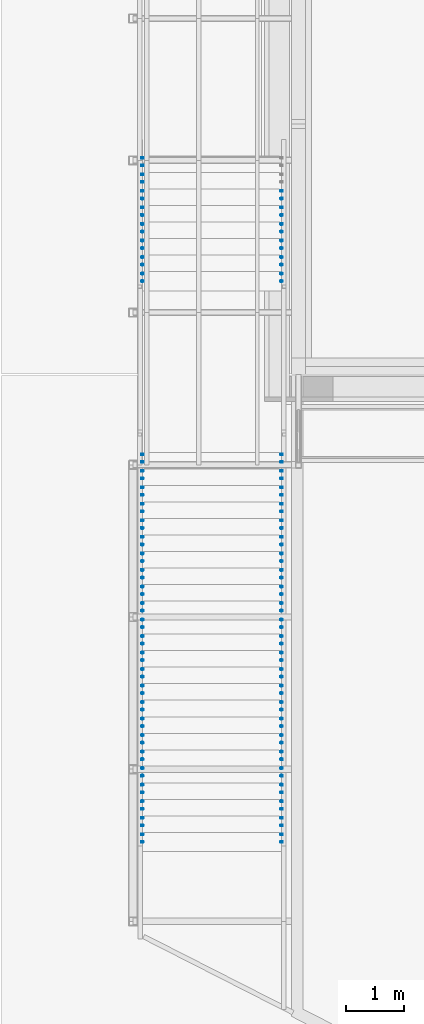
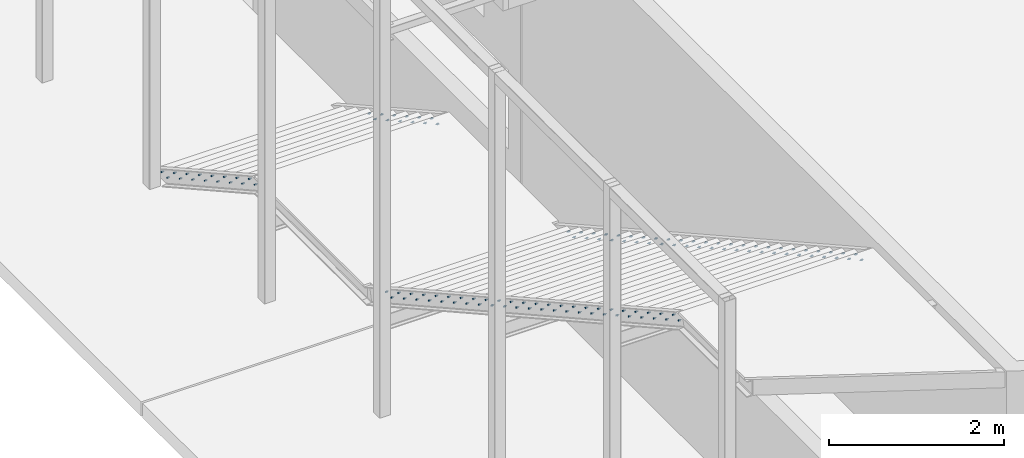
# One storey, part 67 of 78: 62 mechanical fasteners, 4 elements without a shape of their own.
"""IFC2X3 building model written with IfcOpenShell, lengths in millimetres."""

from ifc_helpers import new_model, si_unit, frame, origin_with_axes, origin_2d_with_axis, place, context, subcontext, project, spatial, polyline, circle, outline, extrude, source, transform, mapped, material, type_object, element, aggregate, save


model = new_model("IFC2X3")

# Units and contexts
model_context = context("Model", 3, precision=1e-05, world=origin_with_axes())
body_context = subcontext(model_context, "Body", "Model", "MODEL_VIEW")
ifc_project = project(units=[si_unit("LENGTHUNIT", "METRE", prefix="MILLI"), si_unit("AREAUNIT", "SQUARE_METRE"), si_unit("VOLUMEUNIT", "CUBIC_METRE"), si_unit("MASSUNIT", "GRAM", prefix="KILO"), si_unit("TIMEUNIT", "SECOND"), si_unit("PLANEANGLEUNIT", "RADIAN"), si_unit("SOLIDANGLEUNIT", "STERADIAN"), si_unit("THERMODYNAMICTEMPERATUREUNIT", "DEGREE_CELSIUS"), si_unit("LUMINOUSINTENSITYUNIT", "LUMEN")], contexts=[model_context])

# Site, building, storey
site_placement = place(None, origin_with_axes())
site = spatial("IfcSite", under=ifc_project, at=site_placement, Name="Site", CompositionType="ELEMENT")
building_placement = place(site_placement, origin_with_axes())
building = spatial("IfcBuilding", under=site, at=building_placement, Name="Undefined", CompositionType="ELEMENT")
storey_placement = place(building_placement, origin_with_axes())
storey = spatial("IfcBuildingStorey", under=building, at=storey_placement, Name="Undefined", CompositionType="ELEMENT", Elevation=0.0)

# Assembly, mechanical fastener
assembly_1_placement = place(storey_placement, origin_with_axes())
assembly_1 = element("IfcElementAssembly", 1, at=assembly_1_placement, inside=storey, AssemblyPlace="NOTDEFINED", PredefinedType="RIGID_FRAME")
ifc_material = material(Name="6.8")
mechanical_fastener_type = type_object("IfcMechanicalFastenerType", Name="Bolt assembly")
shared_shape = source(origin_with_axes(), body_context, "Body", "SweptSolid", [
    extrude(circle(Radius=6.0, at=origin_2d_with_axis()), frame((0.0, -9.00000002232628, 0.0), z_axis=(0.0, 1.0, 0.0), x_axis=(1.0, 0.0, 0.0)), (0.0, 0.0, 1.0), 9.1),
    extrude(outline(polyline([(10.96965511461, 0.0), (5.484827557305, 9.50000000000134), (-5.484827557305, 9.50000000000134), (-10.96965511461, 0.0), (-5.484827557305, -9.50000000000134), (5.484827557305, -9.50000000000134), (10.96965511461, 0.0)])), frame((0.0, -17.0000000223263, 0.0), z_axis=(0.0, 1.0, 0.0), x_axis=(1.0, 0.0, 0.0)), (0.0, 0.0, 1.0), 8.0),
    extrude(circle(Radius=6.0, at=origin_2d_with_axis()), frame((0.0, -9.00000002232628, 0.0), z_axis=(0.0, 1.0, 0.0), x_axis=(1.0, 0.0, 0.0)), (0.0, 0.0, 1.0), 35.0),
    extrude(circle(Radius=15.5, at=origin_2d_with_axis()), frame((0.0, 0.0, 0.0), z_axis=(0.0, 1.0, 0.0), x_axis=(1.0, 0.0, 0.0)), (0.0, 0.0, 1.0), 3.2),
    extrude(outline(polyline([(10.39230484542, 0.0), (5.19615242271, 9.00000000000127), (-5.19615242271, 9.00000000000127), (-10.39230484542, 0.0), (-5.19615242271, -9.00000000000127), (5.19615242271, -9.00000000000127), (10.39230484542, 0.0)])), frame((0.0, 3.20000004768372, 0.0), z_axis=(0.0, 1.0, 0.0), x_axis=(1.0, 0.0, 0.0)), (0.0, 0.0, 1.0), 10.8),
])
mechanical_fastener_1_placement = place(assembly_1_placement, frame((-30776.4300000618, -15032.0040538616, 153186.04001333), z_axis=(0.0, 0.0, -1.0), x_axis=(0.0, -1.0, 0.0)))
mechanical_fastener_1 = element("IfcMechanicalFastener", 2, at=mechanical_fastener_1_placement, type_object=mechanical_fastener_type, material=ifc_material, Name="Bolt assembly", NominalDiameter=12.0, NominalLength=35.0, context=body_context, shape_type="MappedRepresentation", body=[
    mapped(shared_shape, transform((0.0, 0.0, 0.0))),
    mapped(shared_shape, transform((130.0, 0.0, 0.0))),
])

assembly_2_placement = place(storey_placement, origin_with_axes())
assembly_2 = element("IfcElementAssembly", 3, at=assembly_2_placement, inside=storey, AssemblyPlace="NOTDEFINED", PredefinedType="RIGID_FRAME")
mechanical_fastener_2_placement = place(assembly_2_placement, frame((-33176.4300000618, -15032.0040538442, 153186.040013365), z_axis=(0.0, 0.0, 1.0), x_axis=(0.0, -1.0, 0.0)))
mechanical_fastener_2 = element("IfcMechanicalFastener", 4, at=mechanical_fastener_2_placement, type_object=mechanical_fastener_type, material=ifc_material, Name="Bolt assembly", NominalDiameter=12.0, NominalLength=35.0, context=body_context, shape_type="MappedRepresentation", body=[
    mapped(shared_shape, transform((0.0, 0.0, 0.0))),
    mapped(shared_shape, transform((130.0, 0.0, 0.0))),
])

# Mechanical fastener
mechanical_fastener_3_placement = place(assembly_1_placement, frame((-30776.4300000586, -14747.0040538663, 153027.04001325), z_axis=(0.0, 0.0, -1.0), x_axis=(0.0, -1.0, 0.0)))
mechanical_fastener_3 = element("IfcMechanicalFastener", 5, at=mechanical_fastener_3_placement, type_object=mechanical_fastener_type, material=ifc_material, Name="Bolt assembly", NominalDiameter=12.0, NominalLength=35.0, context=body_context, shape_type="MappedRepresentation", body=[
    mapped(shared_shape, transform((0.0, 0.0, 0.0))),
    mapped(shared_shape, transform((130.0, 0.0, 0.0))),
])

mechanical_fastener_4_placement = place(assembly_2_placement, frame((-33176.4300000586, -14747.0040538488, 153027.040013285), z_axis=(0.0, 0.0, 1.0), x_axis=(0.0, -1.0, 0.0)))
mechanical_fastener_4 = element("IfcMechanicalFastener", 6, at=mechanical_fastener_4_placement, type_object=mechanical_fastener_type, material=ifc_material, Name="Bolt assembly", NominalDiameter=12.0, NominalLength=35.0, context=body_context, shape_type="MappedRepresentation", body=[
    mapped(shared_shape, transform((0.0, 0.0, 0.0))),
    mapped(shared_shape, transform((130.0, 0.0, 0.0))),
])

mechanical_fastener_5_placement = place(assembly_1_placement, frame((-30776.4300000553, -14462.0040538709, 152868.04001317), z_axis=(0.0, 0.0, -1.0), x_axis=(0.0, -1.0, 0.0)))
mechanical_fastener_5 = element("IfcMechanicalFastener", 7, at=mechanical_fastener_5_placement, type_object=mechanical_fastener_type, material=ifc_material, Name="Bolt assembly", NominalDiameter=12.0, NominalLength=35.0, context=body_context, shape_type="MappedRepresentation", body=[
    mapped(shared_shape, transform((0.0, 0.0, 0.0))),
    mapped(shared_shape, transform((130.0, 0.0, 0.0))),
])

mechanical_fastener_6_placement = place(assembly_2_placement, frame((-33176.4300000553, -14462.0040538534, 152868.040013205), z_axis=(0.0, 0.0, 1.0), x_axis=(0.0, -1.0, 0.0)))
mechanical_fastener_6 = element("IfcMechanicalFastener", 8, at=mechanical_fastener_6_placement, type_object=mechanical_fastener_type, material=ifc_material, Name="Bolt assembly", NominalDiameter=12.0, NominalLength=35.0, context=body_context, shape_type="MappedRepresentation", body=[
    mapped(shared_shape, transform((0.0, 0.0, 0.0))),
    mapped(shared_shape, transform((130.0, 0.0, 0.0))),
])

mechanical_fastener_7_placement = place(assembly_1_placement, frame((-30776.4300000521, -14177.0040538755, 152709.04001309), z_axis=(0.0, 0.0, -1.0), x_axis=(0.0, -1.0, 0.0)))
mechanical_fastener_7 = element("IfcMechanicalFastener", 9, at=mechanical_fastener_7_placement, type_object=mechanical_fastener_type, material=ifc_material, Name="Bolt assembly", NominalDiameter=12.0, NominalLength=35.0, context=body_context, shape_type="MappedRepresentation", body=[
    mapped(shared_shape, transform((0.0, 0.0, 0.0))),
    mapped(shared_shape, transform((130.0, 0.0, 0.0))),
])

mechanical_fastener_8_placement = place(assembly_2_placement, frame((-33176.4300000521, -14177.0040538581, 152709.040013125), z_axis=(0.0, 0.0, 1.0), x_axis=(0.0, -1.0, 0.0)))
mechanical_fastener_8 = element("IfcMechanicalFastener", 10, at=mechanical_fastener_8_placement, type_object=mechanical_fastener_type, material=ifc_material, Name="Bolt assembly", NominalDiameter=12.0, NominalLength=35.0, context=body_context, shape_type="MappedRepresentation", body=[
    mapped(shared_shape, transform((0.0, 0.0, 0.0))),
    mapped(shared_shape, transform((130.0, 0.0, 0.0))),
])

mechanical_fastener_9_placement = place(assembly_1_placement, frame((-30776.4300000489, -13892.0040538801, 152550.04001301), z_axis=(0.0, 0.0, -1.0), x_axis=(0.0, -1.0, 0.0)))
mechanical_fastener_9 = element("IfcMechanicalFastener", 11, at=mechanical_fastener_9_placement, type_object=mechanical_fastener_type, material=ifc_material, Name="Bolt assembly", NominalDiameter=12.0, NominalLength=35.0, context=body_context, shape_type="MappedRepresentation", body=[
    mapped(shared_shape, transform((0.0, 0.0, 0.0))),
    mapped(shared_shape, transform((130.0, 0.0, 0.0))),
])

mechanical_fastener_10_placement = place(assembly_2_placement, frame((-33176.4300000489, -13892.0040538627, 152550.040013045), z_axis=(0.0, 0.0, 1.0), x_axis=(0.0, -1.0, 0.0)))
mechanical_fastener_10 = element("IfcMechanicalFastener", 12, at=mechanical_fastener_10_placement, type_object=mechanical_fastener_type, material=ifc_material, Name="Bolt assembly", NominalDiameter=12.0, NominalLength=35.0, context=body_context, shape_type="MappedRepresentation", body=[
    mapped(shared_shape, transform((0.0, 0.0, 0.0))),
    mapped(shared_shape, transform((130.0, 0.0, 0.0))),
])

mechanical_fastener_11_placement = place(assembly_1_placement, frame((-30776.4300000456, -13607.0040538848, 152391.04001293), z_axis=(0.0, 0.0, -1.0), x_axis=(0.0, -1.0, 0.0)))
mechanical_fastener_11 = element("IfcMechanicalFastener", 13, at=mechanical_fastener_11_placement, type_object=mechanical_fastener_type, material=ifc_material, Name="Bolt assembly", NominalDiameter=12.0, NominalLength=35.0, context=body_context, shape_type="MappedRepresentation", body=[
    mapped(shared_shape, transform((0.0, 0.0, 0.0))),
    mapped(shared_shape, transform((130.0, 0.0, 0.0))),
])

mechanical_fastener_12_placement = place(assembly_2_placement, frame((-33176.4300000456, -13607.0040538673, 152391.040012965), z_axis=(0.0, 0.0, 1.0), x_axis=(0.0, -1.0, 0.0)))
mechanical_fastener_12 = element("IfcMechanicalFastener", 14, at=mechanical_fastener_12_placement, type_object=mechanical_fastener_type, material=ifc_material, Name="Bolt assembly", NominalDiameter=12.0, NominalLength=35.0, context=body_context, shape_type="MappedRepresentation", body=[
    mapped(shared_shape, transform((0.0, 0.0, 0.0))),
    mapped(shared_shape, transform((130.0, 0.0, 0.0))),
])

mechanical_fastener_13_placement = place(assembly_1_placement, frame((-30776.4300000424, -13322.0040538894, 152232.04001285), z_axis=(0.0, 0.0, -1.0), x_axis=(0.0, -1.0, 0.0)))
mechanical_fastener_13 = element("IfcMechanicalFastener", 15, at=mechanical_fastener_13_placement, type_object=mechanical_fastener_type, material=ifc_material, Name="Bolt assembly", NominalDiameter=12.0, NominalLength=35.0, context=body_context, shape_type="MappedRepresentation", body=[
    mapped(shared_shape, transform((0.0, 0.0, 0.0))),
    mapped(shared_shape, transform((130.0, 0.0, 0.0))),
])

mechanical_fastener_14_placement = place(assembly_2_placement, frame((-33176.4300000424, -13322.0040538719, 152232.040012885), z_axis=(0.0, 0.0, 1.0), x_axis=(0.0, -1.0, 0.0)))
mechanical_fastener_14 = element("IfcMechanicalFastener", 16, at=mechanical_fastener_14_placement, type_object=mechanical_fastener_type, material=ifc_material, Name="Bolt assembly", NominalDiameter=12.0, NominalLength=35.0, context=body_context, shape_type="MappedRepresentation", body=[
    mapped(shared_shape, transform((0.0, 0.0, 0.0))),
    mapped(shared_shape, transform((130.0, 0.0, 0.0))),
])

mechanical_fastener_15_placement = place(assembly_1_placement, frame((-30776.4300000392, -13037.004053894, 152073.04001277), z_axis=(0.0, 0.0, -1.0), x_axis=(0.0, -1.0, 0.0)))
mechanical_fastener_15 = element("IfcMechanicalFastener", 17, at=mechanical_fastener_15_placement, type_object=mechanical_fastener_type, material=ifc_material, Name="Bolt assembly", NominalDiameter=12.0, NominalLength=35.0, context=body_context, shape_type="MappedRepresentation", body=[
    mapped(shared_shape, transform((0.0, 0.0, 0.0))),
    mapped(shared_shape, transform((130.0, 0.0, 0.0))),
])

mechanical_fastener_16_placement = place(assembly_2_placement, frame((-33176.4300000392, -13037.0040538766, 152073.040012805), z_axis=(0.0, 0.0, 1.0), x_axis=(0.0, -1.0, 0.0)))
mechanical_fastener_16 = element("IfcMechanicalFastener", 18, at=mechanical_fastener_16_placement, type_object=mechanical_fastener_type, material=ifc_material, Name="Bolt assembly", NominalDiameter=12.0, NominalLength=35.0, context=body_context, shape_type="MappedRepresentation", body=[
    mapped(shared_shape, transform((0.0, 0.0, 0.0))),
    mapped(shared_shape, transform((130.0, 0.0, 0.0))),
])

mechanical_fastener_17_placement = place(assembly_1_placement, frame((-30776.430000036, -12752.0040538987, 151914.04001269), z_axis=(0.0, 0.0, -1.0), x_axis=(0.0, -1.0, 0.0)))
mechanical_fastener_17 = element("IfcMechanicalFastener", 19, at=mechanical_fastener_17_placement, type_object=mechanical_fastener_type, material=ifc_material, Name="Bolt assembly", NominalDiameter=12.0, NominalLength=35.0, context=body_context, shape_type="MappedRepresentation", body=[
    mapped(shared_shape, transform((0.0, 0.0, 0.0))),
    mapped(shared_shape, transform((130.0, 0.0, 0.0))),
])

mechanical_fastener_18_placement = place(assembly_2_placement, frame((-33176.430000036, -12752.0040538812, 151914.040012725), z_axis=(0.0, 0.0, 1.0), x_axis=(0.0, -1.0, 0.0)))
mechanical_fastener_18 = element("IfcMechanicalFastener", 20, at=mechanical_fastener_18_placement, type_object=mechanical_fastener_type, material=ifc_material, Name="Bolt assembly", NominalDiameter=12.0, NominalLength=35.0, context=body_context, shape_type="MappedRepresentation", body=[
    mapped(shared_shape, transform((0.0, 0.0, 0.0))),
    mapped(shared_shape, transform((130.0, 0.0, 0.0))),
])

mechanical_fastener_19_placement = place(assembly_1_placement, frame((-30776.4300000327, -12467.0040539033, 151755.04001261), z_axis=(0.0, 0.0, -1.0), x_axis=(0.0, -1.0, 0.0)))
mechanical_fastener_19 = element("IfcMechanicalFastener", 21, at=mechanical_fastener_19_placement, type_object=mechanical_fastener_type, material=ifc_material, Name="Bolt assembly", NominalDiameter=12.0, NominalLength=35.0, context=body_context, shape_type="MappedRepresentation", body=[
    mapped(shared_shape, transform((0.0, 0.0, 0.0))),
    mapped(shared_shape, transform((130.0, 0.0, 0.0))),
])

mechanical_fastener_20_placement = place(assembly_2_placement, frame((-33176.4300000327, -12467.0040538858, 151755.040012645), z_axis=(0.0, 0.0, 1.0), x_axis=(0.0, -1.0, 0.0)))
mechanical_fastener_20 = element("IfcMechanicalFastener", 22, at=mechanical_fastener_20_placement, type_object=mechanical_fastener_type, material=ifc_material, Name="Bolt assembly", NominalDiameter=12.0, NominalLength=35.0, context=body_context, shape_type="MappedRepresentation", body=[
    mapped(shared_shape, transform((0.0, 0.0, 0.0))),
    mapped(shared_shape, transform((130.0, 0.0, 0.0))),
])

mechanical_fastener_21_placement = place(assembly_1_placement, frame((-30776.4300000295, -12182.0040539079, 151596.04001253), z_axis=(0.0, 0.0, -1.0), x_axis=(0.0, -1.0, 0.0)))
mechanical_fastener_21 = element("IfcMechanicalFastener", 23, at=mechanical_fastener_21_placement, type_object=mechanical_fastener_type, material=ifc_material, Name="Bolt assembly", NominalDiameter=12.0, NominalLength=35.0, context=body_context, shape_type="MappedRepresentation", body=[
    mapped(shared_shape, transform((0.0, 0.0, 0.0))),
    mapped(shared_shape, transform((130.0, 0.0, 0.0))),
])

mechanical_fastener_22_placement = place(assembly_2_placement, frame((-33176.4300000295, -12182.0040538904, 151596.040012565), z_axis=(0.0, 0.0, 1.0), x_axis=(0.0, -1.0, 0.0)))
mechanical_fastener_22 = element("IfcMechanicalFastener", 24, at=mechanical_fastener_22_placement, type_object=mechanical_fastener_type, material=ifc_material, Name="Bolt assembly", NominalDiameter=12.0, NominalLength=35.0, context=body_context, shape_type="MappedRepresentation", body=[
    mapped(shared_shape, transform((0.0, 0.0, 0.0))),
    mapped(shared_shape, transform((130.0, 0.0, 0.0))),
])

mechanical_fastener_23_placement = place(assembly_1_placement, frame((-30776.4300000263, -11897.0040539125, 151437.04001245), z_axis=(0.0, 0.0, -1.0), x_axis=(0.0, -1.0, 0.0)))
mechanical_fastener_23 = element("IfcMechanicalFastener", 25, at=mechanical_fastener_23_placement, type_object=mechanical_fastener_type, material=ifc_material, Name="Bolt assembly", NominalDiameter=12.0, NominalLength=35.0, context=body_context, shape_type="MappedRepresentation", body=[
    mapped(shared_shape, transform((0.0, 0.0, 0.0))),
    mapped(shared_shape, transform((130.0, 0.0, 0.0))),
])

mechanical_fastener_24_placement = place(assembly_2_placement, frame((-33176.4300000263, -11897.0040538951, 151437.040012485), z_axis=(0.0, 0.0, 1.0), x_axis=(0.0, -1.0, 0.0)))
mechanical_fastener_24 = element("IfcMechanicalFastener", 26, at=mechanical_fastener_24_placement, type_object=mechanical_fastener_type, material=ifc_material, Name="Bolt assembly", NominalDiameter=12.0, NominalLength=35.0, context=body_context, shape_type="MappedRepresentation", body=[
    mapped(shared_shape, transform((0.0, 0.0, 0.0))),
    mapped(shared_shape, transform((130.0, 0.0, 0.0))),
])

mechanical_fastener_25_placement = place(assembly_1_placement, frame((-30776.430000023, -11612.0040539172, 151278.04001237), z_axis=(0.0, 0.0, -1.0), x_axis=(0.0, -1.0, 0.0)))
mechanical_fastener_25 = element("IfcMechanicalFastener", 27, at=mechanical_fastener_25_placement, type_object=mechanical_fastener_type, material=ifc_material, Name="Bolt assembly", NominalDiameter=12.0, NominalLength=35.0, context=body_context, shape_type="MappedRepresentation", body=[
    mapped(shared_shape, transform((0.0, 0.0, 0.0))),
    mapped(shared_shape, transform((130.0, 0.0, 0.0))),
])

mechanical_fastener_26_placement = place(assembly_2_placement, frame((-33176.430000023, -11612.0040538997, 151278.040012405), z_axis=(0.0, 0.0, 1.0), x_axis=(0.0, -1.0, 0.0)))
mechanical_fastener_26 = element("IfcMechanicalFastener", 28, at=mechanical_fastener_26_placement, type_object=mechanical_fastener_type, material=ifc_material, Name="Bolt assembly", NominalDiameter=12.0, NominalLength=35.0, context=body_context, shape_type="MappedRepresentation", body=[
    mapped(shared_shape, transform((0.0, 0.0, 0.0))),
    mapped(shared_shape, transform((130.0, 0.0, 0.0))),
])

mechanical_fastener_27_placement = place(assembly_1_placement, frame((-30776.4300000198, -11327.0040539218, 151119.04001229), z_axis=(0.0, 0.0, -1.0), x_axis=(0.0, -1.0, 0.0)))
mechanical_fastener_27 = element("IfcMechanicalFastener", 29, at=mechanical_fastener_27_placement, type_object=mechanical_fastener_type, material=ifc_material, Name="Bolt assembly", NominalDiameter=12.0, NominalLength=35.0, context=body_context, shape_type="MappedRepresentation", body=[
    mapped(shared_shape, transform((0.0, 0.0, 0.0))),
    mapped(shared_shape, transform((130.0, 0.0, 0.0))),
])

mechanical_fastener_28_placement = place(assembly_2_placement, frame((-33176.4300000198, -11327.0040539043, 151119.040012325), z_axis=(0.0, 0.0, 1.0), x_axis=(0.0, -1.0, 0.0)))
mechanical_fastener_28 = element("IfcMechanicalFastener", 30, at=mechanical_fastener_28_placement, type_object=mechanical_fastener_type, material=ifc_material, Name="Bolt assembly", NominalDiameter=12.0, NominalLength=35.0, context=body_context, shape_type="MappedRepresentation", body=[
    mapped(shared_shape, transform((0.0, 0.0, 0.0))),
    mapped(shared_shape, transform((130.0, 0.0, 0.0))),
])

mechanical_fastener_29_placement = place(assembly_1_placement, frame((-30776.4300000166, -11042.0040539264, 150960.04001221), z_axis=(0.0, 0.0, -1.0), x_axis=(0.0, -1.0, 0.0)))
mechanical_fastener_29 = element("IfcMechanicalFastener", 31, at=mechanical_fastener_29_placement, type_object=mechanical_fastener_type, material=ifc_material, Name="Bolt assembly", NominalDiameter=12.0, NominalLength=35.0, context=body_context, shape_type="MappedRepresentation", body=[
    mapped(shared_shape, transform((0.0, 0.0, 0.0))),
    mapped(shared_shape, transform((130.0, 0.0, 0.0))),
])

mechanical_fastener_30_placement = place(assembly_2_placement, frame((-33176.4300000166, -11042.004053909, 150960.040012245), z_axis=(0.0, 0.0, 1.0), x_axis=(0.0, -1.0, 0.0)))
mechanical_fastener_30 = element("IfcMechanicalFastener", 32, at=mechanical_fastener_30_placement, type_object=mechanical_fastener_type, material=ifc_material, Name="Bolt assembly", NominalDiameter=12.0, NominalLength=35.0, context=body_context, shape_type="MappedRepresentation", body=[
    mapped(shared_shape, transform((0.0, 0.0, 0.0))),
    mapped(shared_shape, transform((130.0, 0.0, 0.0))),
])

mechanical_fastener_31_placement = place(assembly_1_placement, frame((-30776.4300000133, -10757.004053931, 150801.04001213), z_axis=(0.0, 0.0, -1.0), x_axis=(0.0, -1.0, 0.0)))
mechanical_fastener_31 = element("IfcMechanicalFastener", 33, at=mechanical_fastener_31_placement, type_object=mechanical_fastener_type, material=ifc_material, Name="Bolt assembly", NominalDiameter=12.0, NominalLength=35.0, context=body_context, shape_type="MappedRepresentation", body=[
    mapped(shared_shape, transform((0.0, 0.0, 0.0))),
    mapped(shared_shape, transform((130.0, 0.0, 0.0))),
])

mechanical_fastener_32_placement = place(assembly_2_placement, frame((-33176.4300000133, -10757.0040539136, 150801.040012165), z_axis=(0.0, 0.0, 1.0), x_axis=(0.0, -1.0, 0.0)))
mechanical_fastener_32 = element("IfcMechanicalFastener", 34, at=mechanical_fastener_32_placement, type_object=mechanical_fastener_type, material=ifc_material, Name="Bolt assembly", NominalDiameter=12.0, NominalLength=35.0, context=body_context, shape_type="MappedRepresentation", body=[
    mapped(shared_shape, transform((0.0, 0.0, 0.0))),
    mapped(shared_shape, transform((130.0, 0.0, 0.0))),
])

mechanical_fastener_33_placement = place(assembly_1_placement, frame((-30776.4300000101, -10472.0040539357, 150642.04001205), z_axis=(0.0, 0.0, -1.0), x_axis=(0.0, -1.0, 0.0)))
mechanical_fastener_33 = element("IfcMechanicalFastener", 35, at=mechanical_fastener_33_placement, type_object=mechanical_fastener_type, material=ifc_material, Name="Bolt assembly", NominalDiameter=12.0, NominalLength=35.0, context=body_context, shape_type="MappedRepresentation", body=[
    mapped(shared_shape, transform((0.0, 0.0, 0.0))),
    mapped(shared_shape, transform((130.0, 0.0, 0.0))),
])

mechanical_fastener_34_placement = place(assembly_2_placement, frame((-33176.4300000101, -10472.0040539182, 150642.040012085), z_axis=(0.0, 0.0, 1.0), x_axis=(0.0, -1.0, 0.0)))
mechanical_fastener_34 = element("IfcMechanicalFastener", 36, at=mechanical_fastener_34_placement, type_object=mechanical_fastener_type, material=ifc_material, Name="Bolt assembly", NominalDiameter=12.0, NominalLength=35.0, context=body_context, shape_type="MappedRepresentation", body=[
    mapped(shared_shape, transform((0.0, 0.0, 0.0))),
    mapped(shared_shape, transform((130.0, 0.0, 0.0))),
])

mechanical_fastener_35_placement = place(assembly_1_placement, frame((-30776.4300000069, -10187.0040539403, 150483.04001197), z_axis=(0.0, 0.0, -1.0), x_axis=(0.0, -1.0, 0.0)))
mechanical_fastener_35 = element("IfcMechanicalFastener", 37, at=mechanical_fastener_35_placement, type_object=mechanical_fastener_type, material=ifc_material, Name="Bolt assembly", NominalDiameter=12.0, NominalLength=35.0, context=body_context, shape_type="MappedRepresentation", body=[
    mapped(shared_shape, transform((0.0, 0.0, 0.0))),
    mapped(shared_shape, transform((130.0, 0.0, 0.0))),
])

mechanical_fastener_36_placement = place(assembly_2_placement, frame((-33176.4300000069, -10187.0040539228, 150483.040012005), z_axis=(0.0, 0.0, 1.0), x_axis=(0.0, -1.0, 0.0)))
mechanical_fastener_36 = element("IfcMechanicalFastener", 38, at=mechanical_fastener_36_placement, type_object=mechanical_fastener_type, material=ifc_material, Name="Bolt assembly", NominalDiameter=12.0, NominalLength=35.0, context=body_context, shape_type="MappedRepresentation", body=[
    mapped(shared_shape, transform((0.0, 0.0, 0.0))),
    mapped(shared_shape, transform((130.0, 0.0, 0.0))),
])

mechanical_fastener_37_placement = place(assembly_1_placement, frame((-30776.4300000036, -9902.00405394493, 150324.04001189), z_axis=(0.0, 0.0, -1.0), x_axis=(0.0, -1.0, 0.0)))
mechanical_fastener_37 = element("IfcMechanicalFastener", 39, at=mechanical_fastener_37_placement, type_object=mechanical_fastener_type, material=ifc_material, Name="Bolt assembly", NominalDiameter=12.0, NominalLength=35.0, context=body_context, shape_type="MappedRepresentation", body=[
    mapped(shared_shape, transform((0.0, 0.0, 0.0))),
    mapped(shared_shape, transform((130.0, 0.0, 0.0))),
])

mechanical_fastener_38_placement = place(assembly_2_placement, frame((-33176.4300000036, -9902.00405392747, 150324.040011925), z_axis=(0.0, 0.0, 1.0), x_axis=(0.0, -1.0, 0.0)))
mechanical_fastener_38 = element("IfcMechanicalFastener", 40, at=mechanical_fastener_38_placement, type_object=mechanical_fastener_type, material=ifc_material, Name="Bolt assembly", NominalDiameter=12.0, NominalLength=35.0, context=body_context, shape_type="MappedRepresentation", body=[
    mapped(shared_shape, transform((0.0, 0.0, 0.0))),
    mapped(shared_shape, transform((130.0, 0.0, 0.0))),
])

mechanical_fastener_39_placement = place(assembly_1_placement, frame((-30776.4300000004, -9617.00405394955, 150165.04001181), z_axis=(0.0, 0.0, -1.0), x_axis=(0.0, -1.0, 0.0)))
mechanical_fastener_39 = element("IfcMechanicalFastener", 41, at=mechanical_fastener_39_placement, type_object=mechanical_fastener_type, material=ifc_material, Name="Bolt assembly", NominalDiameter=12.0, NominalLength=35.0, context=body_context, shape_type="MappedRepresentation", body=[
    mapped(shared_shape, transform((0.0, 0.0, 0.0))),
    mapped(shared_shape, transform((130.0, 0.0, 0.0))),
])

mechanical_fastener_40_placement = place(assembly_2_placement, frame((-33176.4300000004, -9617.00405393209, 150165.040011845), z_axis=(0.0, 0.0, 1.0), x_axis=(0.0, -1.0, 0.0)))
mechanical_fastener_40 = element("IfcMechanicalFastener", 42, at=mechanical_fastener_40_placement, type_object=mechanical_fastener_type, material=ifc_material, Name="Bolt assembly", NominalDiameter=12.0, NominalLength=35.0, context=body_context, shape_type="MappedRepresentation", body=[
    mapped(shared_shape, transform((0.0, 0.0, 0.0))),
    mapped(shared_shape, transform((130.0, 0.0, 0.0))),
])

mechanical_fastener_41_placement = place(assembly_1_placement, frame((-30776.4299999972, -9332.00405395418, 150006.04001173), z_axis=(0.0, 0.0, -1.0), x_axis=(0.0, -1.0, 0.0)))
mechanical_fastener_41 = element("IfcMechanicalFastener", 43, at=mechanical_fastener_41_placement, type_object=mechanical_fastener_type, material=ifc_material, Name="Bolt assembly", NominalDiameter=12.0, NominalLength=35.0, context=body_context, shape_type="MappedRepresentation", body=[
    mapped(shared_shape, transform((0.0, 0.0, 0.0))),
    mapped(shared_shape, transform((130.0, 0.0, 0.0))),
])

mechanical_fastener_42_placement = place(assembly_2_placement, frame((-33176.4299999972, -9332.00405393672, 150006.040011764), z_axis=(0.0, 0.0, 1.0), x_axis=(0.0, -1.0, 0.0)))
mechanical_fastener_42 = element("IfcMechanicalFastener", 44, at=mechanical_fastener_42_placement, type_object=mechanical_fastener_type, material=ifc_material, Name="Bolt assembly", NominalDiameter=12.0, NominalLength=35.0, context=body_context, shape_type="MappedRepresentation", body=[
    mapped(shared_shape, transform((0.0, 0.0, 0.0))),
    mapped(shared_shape, transform((130.0, 0.0, 0.0))),
])

mechanical_fastener_43_placement = place(assembly_1_placement, frame((-30776.429999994, -9047.00405395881, 149847.04001165), z_axis=(0.0, 0.0, -1.0), x_axis=(0.0, -1.0, 0.0)))
mechanical_fastener_43 = element("IfcMechanicalFastener", 45, at=mechanical_fastener_43_placement, type_object=mechanical_fastener_type, material=ifc_material, Name="Bolt assembly", NominalDiameter=12.0, NominalLength=35.0, context=body_context, shape_type="MappedRepresentation", body=[
    mapped(shared_shape, transform((0.0, 0.0, 0.0))),
    mapped(shared_shape, transform((130.0, 0.0, 0.0))),
])

mechanical_fastener_44_placement = place(assembly_2_placement, frame((-33176.429999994, -9047.00405394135, 149847.040011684), z_axis=(0.0, 0.0, 1.0), x_axis=(0.0, -1.0, 0.0)))
mechanical_fastener_44 = element("IfcMechanicalFastener", 46, at=mechanical_fastener_44_placement, type_object=mechanical_fastener_type, material=ifc_material, Name="Bolt assembly", NominalDiameter=12.0, NominalLength=35.0, context=body_context, shape_type="MappedRepresentation", body=[
    mapped(shared_shape, transform((0.0, 0.0, 0.0))),
    mapped(shared_shape, transform((130.0, 0.0, 0.0))),
])

mechanical_fastener_45_placement = place(assembly_1_placement, frame((-30776.4299999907, -8762.00405396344, 149688.040011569), z_axis=(0.0, 0.0, -1.0), x_axis=(0.0, -1.0, 0.0)))
mechanical_fastener_45 = element("IfcMechanicalFastener", 47, at=mechanical_fastener_45_placement, type_object=mechanical_fastener_type, material=ifc_material, Name="Bolt assembly", NominalDiameter=12.0, NominalLength=35.0, context=body_context, shape_type="MappedRepresentation", body=[
    mapped(shared_shape, transform((0.0, 0.0, 0.0))),
    mapped(shared_shape, transform((130.0, 0.0, 0.0))),
])

mechanical_fastener_46_placement = place(assembly_2_placement, frame((-33176.4299999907, -8762.00405394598, 149688.040011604), z_axis=(0.0, 0.0, 1.0), x_axis=(0.0, -1.0, 0.0)))
mechanical_fastener_46 = element("IfcMechanicalFastener", 48, at=mechanical_fastener_46_placement, type_object=mechanical_fastener_type, material=ifc_material, Name="Bolt assembly", NominalDiameter=12.0, NominalLength=35.0, context=body_context, shape_type="MappedRepresentation", body=[
    mapped(shared_shape, transform((0.0, 0.0, 0.0))),
    mapped(shared_shape, transform((130.0, 0.0, 0.0))),
])

mechanical_fastener_47_placement = place(assembly_1_placement, frame((-30776.4299999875, -8477.00405396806, 149529.040011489), z_axis=(0.0, 0.0, -1.0), x_axis=(0.0, -1.0, 0.0)))
mechanical_fastener_47 = element("IfcMechanicalFastener", 49, at=mechanical_fastener_47_placement, type_object=mechanical_fastener_type, material=ifc_material, Name="Bolt assembly", NominalDiameter=12.0, NominalLength=35.0, context=body_context, shape_type="MappedRepresentation", body=[
    mapped(shared_shape, transform((0.0, 0.0, 0.0))),
    mapped(shared_shape, transform((130.0, 0.0, 0.0))),
])

aggregate(assembly_1, [mechanical_fastener_1, mechanical_fastener_3, mechanical_fastener_5, mechanical_fastener_7, mechanical_fastener_9, mechanical_fastener_11, mechanical_fastener_13, mechanical_fastener_15, mechanical_fastener_17, mechanical_fastener_19, mechanical_fastener_21, mechanical_fastener_23, mechanical_fastener_25, mechanical_fastener_27, mechanical_fastener_29, mechanical_fastener_31, mechanical_fastener_33, mechanical_fastener_35, mechanical_fastener_37, mechanical_fastener_39, mechanical_fastener_41, mechanical_fastener_43, mechanical_fastener_45, mechanical_fastener_47])

mechanical_fastener_48_placement = place(assembly_2_placement, frame((-33176.4299999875, -8477.0040539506, 149529.040011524), z_axis=(0.0, 0.0, 1.0), x_axis=(0.0, -1.0, 0.0)))
mechanical_fastener_48 = element("IfcMechanicalFastener", 50, at=mechanical_fastener_48_placement, type_object=mechanical_fastener_type, material=ifc_material, Name="Bolt assembly", NominalDiameter=12.0, NominalLength=35.0, context=body_context, shape_type="MappedRepresentation", body=[
    mapped(shared_shape, transform((0.0, 0.0, 0.0))),
    mapped(shared_shape, transform((130.0, 0.0, 0.0))),
])

aggregate(assembly_2, [mechanical_fastener_2, mechanical_fastener_4, mechanical_fastener_6, mechanical_fastener_8, mechanical_fastener_10, mechanical_fastener_12, mechanical_fastener_14, mechanical_fastener_16, mechanical_fastener_18, mechanical_fastener_20, mechanical_fastener_22, mechanical_fastener_24, mechanical_fastener_26, mechanical_fastener_28, mechanical_fastener_30, mechanical_fastener_32, mechanical_fastener_34, mechanical_fastener_36, mechanical_fastener_38, mechanical_fastener_40, mechanical_fastener_42, mechanical_fastener_44, mechanical_fastener_46, mechanical_fastener_48])

# Assembly, mechanical fastener
assembly_3_placement = place(storey_placement, origin_with_axes())
assembly_3 = element("IfcElementAssembly", 51, at=assembly_3_placement, inside=storey, AssemblyPlace="NOTDEFINED", PredefinedType="RIGID_FRAME")
mechanical_fastener_49_placement = place(assembly_3_placement, frame((-30776.4299999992, -5357.00405391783, 149211.040013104), z_axis=(0.0, 0.0, -1.0), x_axis=(0.0, -1.0, 0.0)))
mechanical_fastener_49 = element("IfcMechanicalFastener", 52, at=mechanical_fastener_49_placement, type_object=mechanical_fastener_type, material=ifc_material, Name="Bolt assembly", NominalDiameter=12.0, NominalLength=35.0, context=body_context, shape_type="MappedRepresentation", body=[
    mapped(shared_shape, transform((0.0, 0.0, 0.0))),
    mapped(shared_shape, transform((130.0, 0.0, 0.0))),
])

assembly_4_placement = place(storey_placement, origin_with_axes())
assembly_4 = element("IfcElementAssembly", 53, at=assembly_4_placement, inside=storey, AssemblyPlace="NOTDEFINED", PredefinedType="RIGID_FRAME")
mechanical_fastener_50_placement = place(assembly_4_placement, frame((-33176.4299999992, -5357.00405391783, 149211.040013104), z_axis=(0.0, 0.0, 1.0), x_axis=(0.0, -1.0, 0.0)))
mechanical_fastener_50 = element("IfcMechanicalFastener", 54, at=mechanical_fastener_50_placement, type_object=mechanical_fastener_type, material=ifc_material, Name="Bolt assembly", NominalDiameter=12.0, NominalLength=35.0, context=body_context, shape_type="MappedRepresentation", body=[
    mapped(shared_shape, transform((0.0, 0.0, 0.0))),
    mapped(shared_shape, transform((130.0, 0.0, 0.0))),
])

# Mechanical fastener
mechanical_fastener_51_placement = place(assembly_3_placement, frame((-30776.4299999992, -5072.00405392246, 149052.040012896), z_axis=(0.0, 0.0, -1.0), x_axis=(0.0, -1.0, 0.0)))
mechanical_fastener_51 = element("IfcMechanicalFastener", 55, at=mechanical_fastener_51_placement, type_object=mechanical_fastener_type, material=ifc_material, Name="Bolt assembly", NominalDiameter=12.0, NominalLength=35.0, context=body_context, shape_type="MappedRepresentation", body=[
    mapped(shared_shape, transform((0.0, 0.0, 0.0))),
    mapped(shared_shape, transform((130.0, 0.0, 0.0))),
])

mechanical_fastener_52_placement = place(assembly_4_placement, frame((-33176.4299999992, -5072.00405392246, 149052.040012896), z_axis=(0.0, 0.0, 1.0), x_axis=(0.0, -1.0, 0.0)))
mechanical_fastener_52 = element("IfcMechanicalFastener", 56, at=mechanical_fastener_52_placement, type_object=mechanical_fastener_type, material=ifc_material, Name="Bolt assembly", NominalDiameter=12.0, NominalLength=35.0, context=body_context, shape_type="MappedRepresentation", body=[
    mapped(shared_shape, transform((0.0, 0.0, 0.0))),
    mapped(shared_shape, transform((130.0, 0.0, 0.0))),
])

mechanical_fastener_53_placement = place(assembly_3_placement, frame((-30776.4299999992, -4787.00405392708, 148893.040012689), z_axis=(0.0, 0.0, -1.0), x_axis=(0.0, -1.0, 0.0)))
mechanical_fastener_53 = element("IfcMechanicalFastener", 57, at=mechanical_fastener_53_placement, type_object=mechanical_fastener_type, material=ifc_material, Name="Bolt assembly", NominalDiameter=12.0, NominalLength=35.0, context=body_context, shape_type="MappedRepresentation", body=[
    mapped(shared_shape, transform((0.0, 0.0, 0.0))),
    mapped(shared_shape, transform((130.0, 0.0, 0.0))),
])

mechanical_fastener_54_placement = place(assembly_4_placement, frame((-33176.4299999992, -4787.00405392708, 148893.040012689), z_axis=(0.0, 0.0, 1.0), x_axis=(0.0, -1.0, 0.0)))
mechanical_fastener_54 = element("IfcMechanicalFastener", 58, at=mechanical_fastener_54_placement, type_object=mechanical_fastener_type, material=ifc_material, Name="Bolt assembly", NominalDiameter=12.0, NominalLength=35.0, context=body_context, shape_type="MappedRepresentation", body=[
    mapped(shared_shape, transform((0.0, 0.0, 0.0))),
    mapped(shared_shape, transform((130.0, 0.0, 0.0))),
])

mechanical_fastener_55_placement = place(assembly_3_placement, frame((-30776.4299999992, -4502.00405393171, 148734.040012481), z_axis=(0.0, 0.0, -1.0), x_axis=(0.0, -1.0, 0.0)))
mechanical_fastener_55 = element("IfcMechanicalFastener", 59, at=mechanical_fastener_55_placement, type_object=mechanical_fastener_type, material=ifc_material, Name="Bolt assembly", NominalDiameter=12.0, NominalLength=35.0, context=body_context, shape_type="MappedRepresentation", body=[
    mapped(shared_shape, transform((0.0, 0.0, 0.0))),
    mapped(shared_shape, transform((130.0, 0.0, 0.0))),
])

mechanical_fastener_56_placement = place(assembly_4_placement, frame((-33176.4299999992, -4502.00405393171, 148734.040012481), z_axis=(0.0, 0.0, 1.0), x_axis=(0.0, -1.0, 0.0)))
mechanical_fastener_56 = element("IfcMechanicalFastener", 60, at=mechanical_fastener_56_placement, type_object=mechanical_fastener_type, material=ifc_material, Name="Bolt assembly", NominalDiameter=12.0, NominalLength=35.0, context=body_context, shape_type="MappedRepresentation", body=[
    mapped(shared_shape, transform((0.0, 0.0, 0.0))),
    mapped(shared_shape, transform((130.0, 0.0, 0.0))),
])

mechanical_fastener_57_placement = place(assembly_3_placement, frame((-30776.4299999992, -4217.00405393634, 148575.040012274), z_axis=(0.0, 0.0, -1.0), x_axis=(0.0, -1.0, 0.0)))
mechanical_fastener_57 = element("IfcMechanicalFastener", 61, at=mechanical_fastener_57_placement, type_object=mechanical_fastener_type, material=ifc_material, Name="Bolt assembly", NominalDiameter=12.0, NominalLength=35.0, context=body_context, shape_type="MappedRepresentation", body=[
    mapped(shared_shape, transform((0.0, 0.0, 0.0))),
    mapped(shared_shape, transform((130.0, 0.0, 0.0))),
])

mechanical_fastener_58_placement = place(assembly_4_placement, frame((-33176.4299999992, -4217.00405393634, 148575.040012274), z_axis=(0.0, 0.0, 1.0), x_axis=(0.0, -1.0, 0.0)))
mechanical_fastener_58 = element("IfcMechanicalFastener", 62, at=mechanical_fastener_58_placement, type_object=mechanical_fastener_type, material=ifc_material, Name="Bolt assembly", NominalDiameter=12.0, NominalLength=35.0, context=body_context, shape_type="MappedRepresentation", body=[
    mapped(shared_shape, transform((0.0, 0.0, 0.0))),
    mapped(shared_shape, transform((130.0, 0.0, 0.0))),
])

mechanical_fastener_59_placement = place(assembly_3_placement, frame((-30776.4299999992, -3932.00405394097, 148416.040012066), z_axis=(0.0, 0.0, -1.0), x_axis=(0.0, -1.0, 0.0)))
mechanical_fastener_59 = element("IfcMechanicalFastener", 63, at=mechanical_fastener_59_placement, type_object=mechanical_fastener_type, material=ifc_material, Name="Bolt assembly", NominalDiameter=12.0, NominalLength=35.0, context=body_context, shape_type="MappedRepresentation", body=[
    mapped(shared_shape, transform((0.0, 0.0, 0.0))),
    mapped(shared_shape, transform((130.0, 0.0, 0.0))),
])

aggregate(assembly_3, [mechanical_fastener_49, mechanical_fastener_51, mechanical_fastener_53, mechanical_fastener_55, mechanical_fastener_57, mechanical_fastener_59])

mechanical_fastener_60_placement = place(assembly_4_placement, frame((-33176.4299999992, -3932.00405394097, 148416.040012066), z_axis=(0.0, 0.0, 1.0), x_axis=(0.0, -1.0, 0.0)))
mechanical_fastener_60 = element("IfcMechanicalFastener", 64, at=mechanical_fastener_60_placement, type_object=mechanical_fastener_type, material=ifc_material, Name="Bolt assembly", NominalDiameter=12.0, NominalLength=35.0, context=body_context, shape_type="MappedRepresentation", body=[
    mapped(shared_shape, transform((0.0, 0.0, 0.0))),
    mapped(shared_shape, transform((130.0, 0.0, 0.0))),
])

mechanical_fastener_61_placement = place(assembly_4_placement, frame((-33176.4299999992, -3647.00405394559, 148257.040011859), z_axis=(0.0, 0.0, 1.0), x_axis=(0.0, -1.0, 0.0)))
mechanical_fastener_61 = element("IfcMechanicalFastener", 65, at=mechanical_fastener_61_placement, type_object=mechanical_fastener_type, material=ifc_material, Name="Bolt assembly", NominalDiameter=12.0, NominalLength=35.0, context=body_context, shape_type="MappedRepresentation", body=[
    mapped(shared_shape, transform((0.0, 0.0, 0.0))),
    mapped(shared_shape, transform((130.0, 0.0, 0.0))),
])

mechanical_fastener_62_placement = place(assembly_4_placement, frame((-33176.4299999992, -3362.00405395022, 148098.040011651), z_axis=(0.0, 0.0, 1.0), x_axis=(0.0, -1.0, 0.0)))
mechanical_fastener_62 = element("IfcMechanicalFastener", 66, at=mechanical_fastener_62_placement, type_object=mechanical_fastener_type, material=ifc_material, Name="Bolt assembly", NominalDiameter=12.0, NominalLength=35.0, context=body_context, shape_type="MappedRepresentation", body=[
    mapped(shared_shape, transform((0.0, 0.0, 0.0))),
    mapped(shared_shape, transform((130.0, 0.0, 0.0))),
])

aggregate(assembly_4, [mechanical_fastener_50, mechanical_fastener_52, mechanical_fastener_54, mechanical_fastener_56, mechanical_fastener_58, mechanical_fastener_60, mechanical_fastener_61, mechanical_fastener_62])

save(model, "model.ifc")
